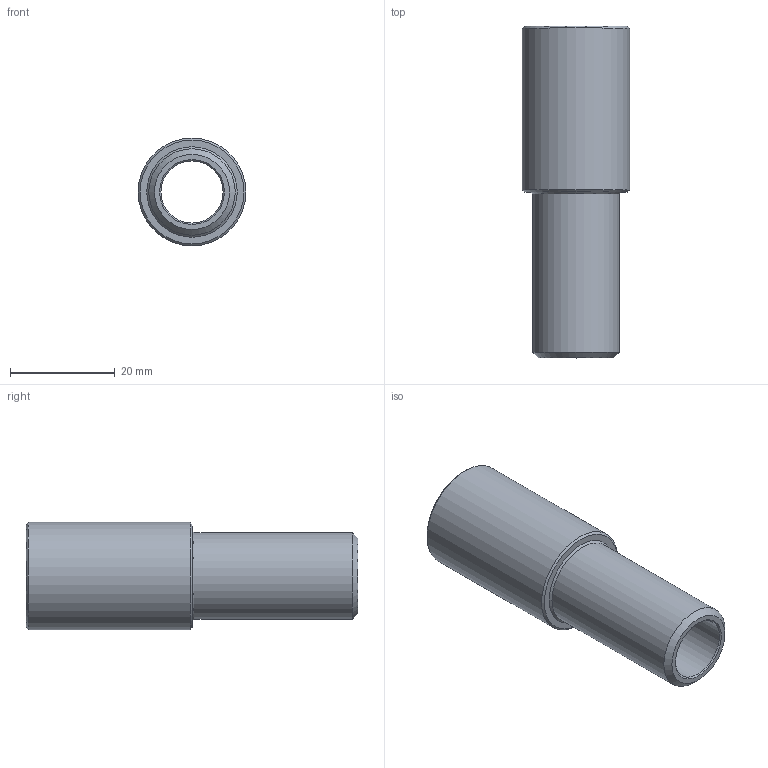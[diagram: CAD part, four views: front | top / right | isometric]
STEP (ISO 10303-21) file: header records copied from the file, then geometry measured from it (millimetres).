
FILE_DESCRIPTION(/* description */ (''),/* implementation_level */ '2;1');
FILE_NAME(/* name */ 'C:/Users/drich/Desktop/EP38X2-1_2 v1.step',/* time_stamp */ '2019-11-18T15:06:23-06:00',/* author */ (''),/* organization */ (''),/* preprocessor_version */ 'ST-DEVELOPER v18',/* originating_system */ 'Autodesk Translation Framework v8.12.0.6',/* authorisation */ '');
FILE_SCHEMA (('AUTOMOTIVE_DESIGN { 1 0 10303 214 3 1 1 }'));
Length unit declared in the file: inch
Products named in the file (2): EP38X2-1_2; EP38X2.5
Assembly tree (1 placements, depth 2):
  EP38X2-1_2
    EP38X2.5
Bounding box: 20.62 x 63.5 x 20.62 mm (x, y, z)
Volume: 8759.3 mm3; surface area: 6727.9 mm2
Topology: 1 solids, 1 shells, 23 faces, 55 edges, 37 vertices
Faces by surface type: plane 11, cone 7, cylinder 5
Full cylindrical faces by diameter (mm): 11.887 x1, 14.986 x1, 15.173 x1, 16.537 x1, 20.625 x1
Entity records: 740 total; most frequent: CARTESIAN_POINT 132, DIRECTION 124, ORIENTED_EDGE 110, EDGE_CURVE 55, AXIS2_PLACEMENT_3D 50, VERTEX_POINT 37, EDGE_LOOP 28, LINE 24
